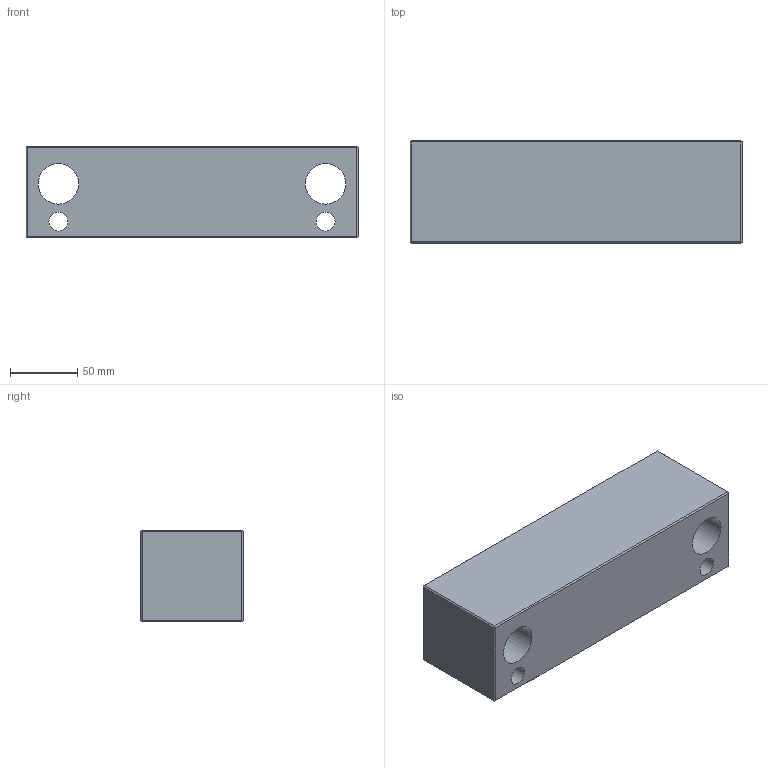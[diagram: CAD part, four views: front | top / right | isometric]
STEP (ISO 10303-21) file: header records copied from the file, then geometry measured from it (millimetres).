
FILE_DESCRIPTION(/* description */ ('STEP AP214'),/* implementation_level */ '2;1');
FILE_NAME(/* name */ 'KM0452463960761730',/* time_stamp */ '2026-06-23T12:06:03+02:00',/* author */ ('License CC BY-ND 4.0'),/* organization */ ('CADENAS'),/* preprocessor_version */ 'ST-DEVELOPER v20',/* originating_system */ 'PARTsolutions',/* authorisation */ ' ');
FILE_SCHEMA (('AUTOMOTIVE_DESIGN {1 0 10303 214 3 1 1}'));
Length unit declared in the file: millimetre
Products named in the file (1): KM0452463960761730
Bounding box: 246 x 76 x 68 mm (x, y, z)
Volume: 1139712.9 mm3; surface area: 97836.5 mm2
Topology: 1 solids, 1 shells, 22 faces, 60 edges, 40 vertices
Faces by surface type: plane 18, cylinder 4
Full cylindrical faces by diameter (mm): 14 x2, 30 x2
Entity records: 718 total; most frequent: CARTESIAN_POINT 119, ORIENTED_EDGE 112, DIRECTION 110, EDGE_CURVE 56, LINE 48, VECTOR 48, VERTEX_POINT 40, EDGE_LOOP 34
